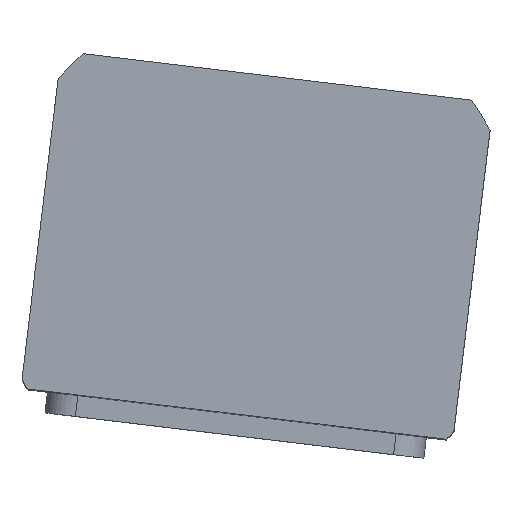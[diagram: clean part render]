
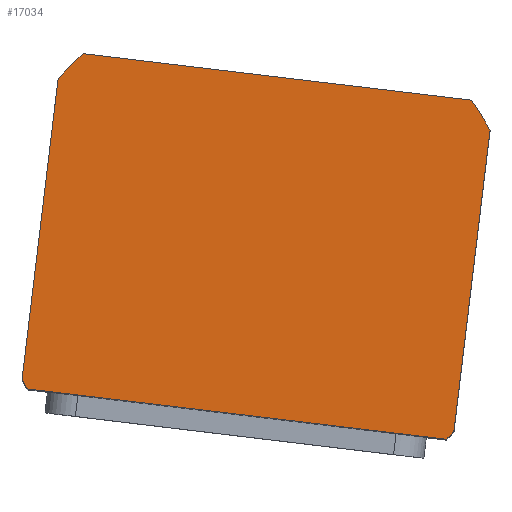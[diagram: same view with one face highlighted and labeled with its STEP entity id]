
A CAD part, top view. The second image highlights one B-rep face of the part: STEP entity #17034.
In plain terms, the highlighted planar face has unit normal (0, 0, 1) as drawn and (0, 0, -1) by its records, which use the part's own axes.
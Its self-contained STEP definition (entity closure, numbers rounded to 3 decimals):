
#202 = VERTEX_POINT ( 'NONE', #21349 ) ;
#475 = AXIS2_PLACEMENT_3D ( 'NONE', #20538, #9920, #22326 ) ;
#1373 = ORIENTED_EDGE ( 'NONE', *, *, #3628, .F. ) ;
#1458 = EDGE_CURVE ( 'NONE', #6669, #202, #22345, .T. ) ;
#2005 = CARTESIAN_POINT ( 'NONE',  ( -55.374, 44.5, 0. ) ) ;
#2222 = ORIENTED_EDGE ( 'NONE', *, *, #3226, .F. ) ;
#2540 = DIRECTION ( 'NONE',  ( 1., 0., 0. ) ) ;
#3194 = CARTESIAN_POINT ( 'NONE',  ( 57., 42.265, 0. ) ) ;
#3226 = EDGE_CURVE ( 'NONE', #20753, #21654, #3502, .T. ) ;
#3254 = CARTESIAN_POINT ( 'NONE',  ( 57., -37.265, 0. ) ) ;
#3502 = CIRCLE ( 'NONE', #16401, 69.5 ) ;
#3628 = EDGE_CURVE ( 'NONE', #8062, #18655, #15932, .T. ) ;
#3823 = DIRECTION ( 'NONE',  ( 1., 0., 0. ) ) ;
#3897 = VERTEX_POINT ( 'NONE', #17598 ) ;
#4106 = CARTESIAN_POINT ( 'NONE',  ( 55.374, 44.5, 0. ) ) ;
#4118 = FACE_OUTER_BOUND ( 'NONE', #13626, .T. ) ;
#4413 = CIRCLE ( 'NONE', #19052, 69.5 ) ;
#5348 = DIRECTION ( 'NONE',  ( 0., 0., 1. ) ) ;
#5737 = CARTESIAN_POINT ( 'NONE',  ( 0., 2.5, 0. ) ) ;
#6669 = VERTEX_POINT ( 'NONE', #7863 ) ;
#7527 = DIRECTION ( 'NONE',  ( 1., 0., 0. ) ) ;
#7545 = EDGE_CURVE ( 'NONE', #21654, #14939, #15906, .T. ) ;
#7646 = CARTESIAN_POINT ( 'NONE',  ( 0., 2.5, 0. ) ) ;
#7863 = CARTESIAN_POINT ( 'NONE',  ( -57., 42.265, 0. ) ) ;
#8062 = VERTEX_POINT ( 'NONE', #4106 ) ;
#8298 = ORIENTED_EDGE ( 'NONE', *, *, #17294, .F. ) ;
#9176 = VECTOR ( 'NONE', #3823, 1000. ) ;
#9407 = DIRECTION ( 'NONE',  ( 1., 0., 0. ) ) ;
#9410 = ORIENTED_EDGE ( 'NONE', *, *, #7545, .F. ) ;
#9534 = DIRECTION ( 'NONE',  ( 0., 1., 0. ) ) ;
#9871 = DIRECTION ( 'NONE',  ( -1., 0., 0. ) ) ;
#9920 = DIRECTION ( 'NONE',  ( 0., 0., 1. ) ) ;
#10848 = LINE ( 'NONE', #14163, #9176 ) ;
#11220 = EDGE_CURVE ( 'NONE', #14939, #8062, #4413, .T. ) ;
#11334 = PLANE ( 'NONE',  #19892 ) ;
#11997 = ORIENTED_EDGE ( 'NONE', *, *, #20570, .F. ) ;
#12512 = CARTESIAN_POINT ( 'NONE',  ( 51.198, -44.5, 0. ) ) ;
#13019 = ORIENTED_EDGE ( 'NONE', *, *, #1458, .F. ) ;
#13094 = DIRECTION ( 'NONE',  ( 0., 0., 1. ) ) ;
#13626 = EDGE_LOOP ( 'NONE', ( #14842, #9410, #2222, #22721, #11997, #13019, #8298, #1373 ) ) ;
#14163 = CARTESIAN_POINT ( 'NONE',  ( -57., -44.5, 0. ) ) ;
#14801 = CARTESIAN_POINT ( 'NONE',  ( 0., 0., 0. ) ) ;
#14842 = ORIENTED_EDGE ( 'NONE', *, *, #11220, .F. ) ;
#14939 = VERTEX_POINT ( 'NONE', #3194 ) ;
#14953 = CIRCLE ( 'NONE', #19473, 69.5 ) ;
#15906 = LINE ( 'NONE', #18363, #20622 ) ;
#15922 = CARTESIAN_POINT ( 'NONE',  ( 0., 2.5, 0. ) ) ;
#15932 = LINE ( 'NONE', #20411, #20647 ) ;
#16401 = AXIS2_PLACEMENT_3D ( 'NONE', #5737, #18102, #7527 ) ;
#17034 = ADVANCED_FACE ( 'NONE', ( #4118 ), #11334, .F. ) ;
#17093 = CIRCLE ( 'NONE', #475, 69.5 ) ;
#17294 = EDGE_CURVE ( 'NONE', #18655, #6669, #17093, .T. ) ;
#17598 = CARTESIAN_POINT ( 'NONE',  ( -51.198, -44.5, 0. ) ) ;
#17614 = VECTOR ( 'NONE', #21957, 1000. ) ;
#17701 = DIRECTION ( 'NONE',  ( 1., 0., 0. ) ) ;
#18102 = DIRECTION ( 'NONE',  ( 0., 0., 1. ) ) ;
#18363 = CARTESIAN_POINT ( 'NONE',  ( 57., 44.5, 0. ) ) ;
#18605 = CARTESIAN_POINT ( 'NONE',  ( -57., 44.5, 0. ) ) ;
#18655 = VERTEX_POINT ( 'NONE', #2005 ) ;
#19052 = AXIS2_PLACEMENT_3D ( 'NONE', #7646, #20019, #9407 ) ;
#19330 = EDGE_CURVE ( 'NONE', #3897, #20753, #10848, .T. ) ;
#19473 = AXIS2_PLACEMENT_3D ( 'NONE', #15922, #5348, #17701 ) ;
#19892 = AXIS2_PLACEMENT_3D ( 'NONE', #14801, #13094, #2540 ) ;
#20019 = DIRECTION ( 'NONE',  ( 0., 0., 1. ) ) ;
#20411 = CARTESIAN_POINT ( 'NONE',  ( -57., 44.5, 0. ) ) ;
#20538 = CARTESIAN_POINT ( 'NONE',  ( 0., 2.5, 0. ) ) ;
#20570 = EDGE_CURVE ( 'NONE', #202, #3897, #14953, .T. ) ;
#20622 = VECTOR ( 'NONE', #9534, 1000. ) ;
#20647 = VECTOR ( 'NONE', #9871, 1000. ) ;
#20753 = VERTEX_POINT ( 'NONE', #12512 ) ;
#21349 = CARTESIAN_POINT ( 'NONE',  ( -57., -37.265, 0. ) ) ;
#21654 = VERTEX_POINT ( 'NONE', #3254 ) ;
#21957 = DIRECTION ( 'NONE',  ( 0., -1., 0. ) ) ;
#22326 = DIRECTION ( 'NONE',  ( 1., 0., 0. ) ) ;
#22345 = LINE ( 'NONE', #18605, #17614 ) ;
#22721 = ORIENTED_EDGE ( 'NONE', *, *, #19330, .F. ) ;
